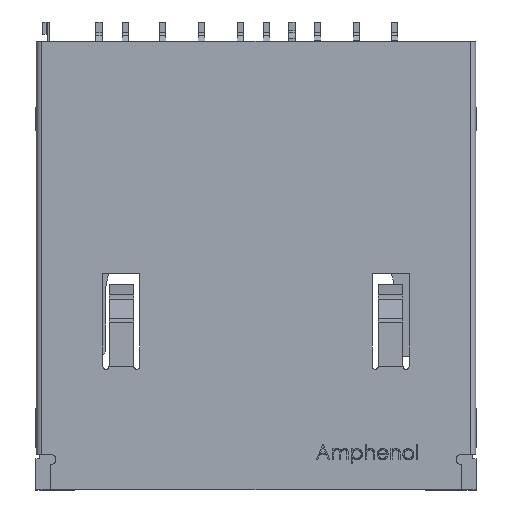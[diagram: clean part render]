
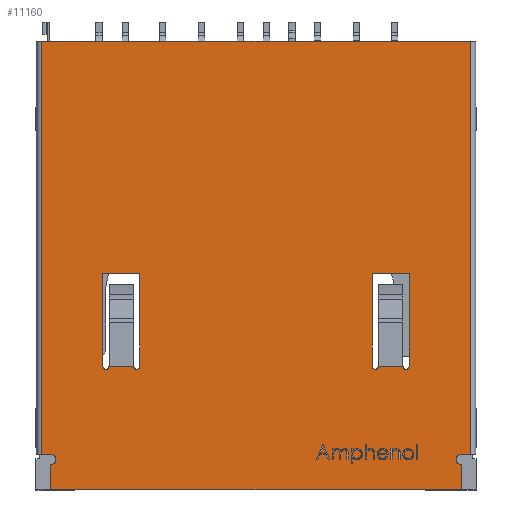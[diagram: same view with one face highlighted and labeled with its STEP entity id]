
A CAD part, top view. The second image highlights one B-rep face of the part: STEP entity #11160.
In plain terms, the highlighted planar face has unit normal (0, 0, 1) as drawn and (0, 1, 0) by its records, which use the part's own axes.
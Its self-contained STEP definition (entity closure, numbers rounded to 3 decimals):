
#378=CIRCLE('',#11990,0.33);
#379=CIRCLE('',#11991,0.33);
#380=CIRCLE('',#11992,0.2);
#381=CIRCLE('',#11993,0.2);
#382=CIRCLE('',#11994,0.2);
#383=CIRCLE('',#11995,0.2);
#586=FACE_BOUND('',#1288,.T.);
#587=FACE_BOUND('',#1289,.T.);
#647=FACE_OUTER_BOUND('',#1287,.T.);
#1287=EDGE_LOOP('',(#7486,#7487,#7488,#7489,#7490,#7491,#7492,#7493,#7494,
#7495));
#1288=EDGE_LOOP('',(#7496,#7497,#7498,#7499,#7500,#7501));
#1289=EDGE_LOOP('',(#7502,#7503,#7504,#7505,#7506,#7507));
#1995=LINE('',#15857,#3332);
#2013=LINE('',#15905,#3350);
#2015=LINE('',#15909,#3352);
#2017=LINE('',#15913,#3354);
#2018=LINE('',#15916,#3355);
#2019=LINE('',#15918,#3356);
#2020=LINE('',#15920,#3357);
#2021=LINE('',#15922,#3358);
#2022=LINE('',#15926,#3359);
#2023=LINE('',#15930,#3360);
#2024=LINE('',#15932,#3361);
#2025=LINE('',#15934,#3362);
#2026=LINE('',#15938,#3363);
#2027=LINE('',#15942,#3364);
#2028=LINE('',#15944,#3365);
#2029=LINE('',#15946,#3366);
#3332=VECTOR('',#12872,0.59);
#3350=VECTOR('',#12906,26.52);
#3352=VECTOR('',#12910,1.64);
#3354=VECTOR('',#12914,1.64);
#3355=VECTOR('',#12917,26.7);
#3356=VECTOR('',#12918,27.7);
#3357=VECTOR('',#12919,26.7);
#3358=VECTOR('',#12920,0.59);
#3359=VECTOR('',#12923,1.6);
#3360=VECTOR('',#12926,6.);
#3361=VECTOR('',#12927,2.4);
#3362=VECTOR('',#12928,6.);
#3363=VECTOR('',#12931,1.6);
#3364=VECTOR('',#12934,6.);
#3365=VECTOR('',#12935,2.4);
#3366=VECTOR('',#12936,6.);
#4660=VERTEX_POINT('',#15854);
#4661=VERTEX_POINT('',#15856);
#4682=VERTEX_POINT('',#15902);
#4683=VERTEX_POINT('',#15904);
#4684=VERTEX_POINT('',#15908);
#4685=VERTEX_POINT('',#15912);
#4686=VERTEX_POINT('',#15915);
#4687=VERTEX_POINT('',#15917);
#4688=VERTEX_POINT('',#15919);
#4689=VERTEX_POINT('',#15921);
#4690=VERTEX_POINT('',#15924);
#4691=VERTEX_POINT('',#15925);
#4692=VERTEX_POINT('',#15927);
#4693=VERTEX_POINT('',#15929);
#4694=VERTEX_POINT('',#15931);
#4695=VERTEX_POINT('',#15933);
#4696=VERTEX_POINT('',#15936);
#4697=VERTEX_POINT('',#15937);
#4698=VERTEX_POINT('',#15939);
#4699=VERTEX_POINT('',#15941);
#4700=VERTEX_POINT('',#15943);
#4701=VERTEX_POINT('',#15945);
#5760=EDGE_CURVE('',#4661,#4660,#1995,.T.);
#5784=EDGE_CURVE('',#4682,#4683,#2013,.T.);
#5786=EDGE_CURVE('',#4683,#4684,#2015,.T.);
#5788=EDGE_CURVE('',#4685,#4682,#2017,.T.);
#5789=EDGE_CURVE('',#4661,#4685,#378,.T.);
#5790=EDGE_CURVE('',#4660,#4686,#2018,.T.);
#5791=EDGE_CURVE('',#4687,#4686,#2019,.T.);
#5792=EDGE_CURVE('',#4687,#4688,#2020,.T.);
#5793=EDGE_CURVE('',#4689,#4688,#2021,.T.);
#5794=EDGE_CURVE('',#4684,#4689,#379,.T.);
#5795=EDGE_CURVE('',#4690,#4691,#2022,.T.);
#5796=EDGE_CURVE('',#4692,#4690,#380,.T.);
#5797=EDGE_CURVE('',#4693,#4692,#2023,.T.);
#5798=EDGE_CURVE('',#4694,#4693,#2024,.T.);
#5799=EDGE_CURVE('',#4694,#4695,#2025,.T.);
#5800=EDGE_CURVE('',#4691,#4695,#381,.T.);
#5801=EDGE_CURVE('',#4696,#4697,#2026,.T.);
#5802=EDGE_CURVE('',#4698,#4696,#382,.T.);
#5803=EDGE_CURVE('',#4699,#4698,#2027,.T.);
#5804=EDGE_CURVE('',#4700,#4699,#2028,.T.);
#5805=EDGE_CURVE('',#4701,#4700,#2029,.T.);
#5806=EDGE_CURVE('',#4697,#4701,#383,.T.);
#7486=ORIENTED_EDGE('',*,*,#5784,.F.);
#7487=ORIENTED_EDGE('',*,*,#5788,.F.);
#7488=ORIENTED_EDGE('',*,*,#5789,.F.);
#7489=ORIENTED_EDGE('',*,*,#5760,.T.);
#7490=ORIENTED_EDGE('',*,*,#5790,.T.);
#7491=ORIENTED_EDGE('',*,*,#5791,.F.);
#7492=ORIENTED_EDGE('',*,*,#5792,.T.);
#7493=ORIENTED_EDGE('',*,*,#5793,.F.);
#7494=ORIENTED_EDGE('',*,*,#5794,.F.);
#7495=ORIENTED_EDGE('',*,*,#5786,.F.);
#7496=ORIENTED_EDGE('',*,*,#5795,.F.);
#7497=ORIENTED_EDGE('',*,*,#5796,.F.);
#7498=ORIENTED_EDGE('',*,*,#5797,.F.);
#7499=ORIENTED_EDGE('',*,*,#5798,.F.);
#7500=ORIENTED_EDGE('',*,*,#5799,.T.);
#7501=ORIENTED_EDGE('',*,*,#5800,.F.);
#7502=ORIENTED_EDGE('',*,*,#5801,.F.);
#7503=ORIENTED_EDGE('',*,*,#5802,.F.);
#7504=ORIENTED_EDGE('',*,*,#5803,.F.);
#7505=ORIENTED_EDGE('',*,*,#5804,.F.);
#7506=ORIENTED_EDGE('',*,*,#5805,.F.);
#7507=ORIENTED_EDGE('',*,*,#5806,.F.);
#10679=PLANE('',#11989);
#11160=ADVANCED_FACE('',(#647,#586,#587),#10679,.T.);
#11989=AXIS2_PLACEMENT_3D('',#15911,#12912,#12913);
#11990=AXIS2_PLACEMENT_3D('',#15914,#12915,#12916);
#11991=AXIS2_PLACEMENT_3D('',#15923,#12921,#12922);
#11992=AXIS2_PLACEMENT_3D('',#15928,#12924,#12925);
#11993=AXIS2_PLACEMENT_3D('',#15935,#12929,#12930);
#11994=AXIS2_PLACEMENT_3D('',#15940,#12932,#12933);
#11995=AXIS2_PLACEMENT_3D('',#15947,#12937,#12938);
#12872=DIRECTION('',(1.,0.,0.));
#12906=DIRECTION('',(-1.,0.,0.));
#12910=DIRECTION('',(0.,0.,-1.));
#12912=DIRECTION('center_axis',(0.,1.,0.));
#12913=DIRECTION('ref_axis',(1.,0.,0.));
#12914=DIRECTION('',(0.,0.,1.));
#12915=DIRECTION('center_axis',(0.,1.,0.));
#12916=DIRECTION('ref_axis',(-1.,0.,0.));
#12917=DIRECTION('',(0.,0.,-1.));
#12918=DIRECTION('',(1.,0.,0.));
#12919=DIRECTION('',(0.,0.,1.));
#12920=DIRECTION('',(-1.,0.,0.));
#12921=DIRECTION('center_axis',(0.,1.,0.));
#12922=DIRECTION('ref_axis',(1.,0.,0.));
#12923=DIRECTION('',(1.,0.,0.));
#12924=DIRECTION('center_axis',(0.,1.,0.));
#12925=DIRECTION('ref_axis',(-1.,0.,0.));
#12926=DIRECTION('',(0.,0.,1.));
#12927=DIRECTION('',(-1.,0.,0.));
#12928=DIRECTION('',(0.,0.,1.));
#12929=DIRECTION('center_axis',(0.,1.,0.));
#12930=DIRECTION('ref_axis',(-1.,0.,0.));
#12931=DIRECTION('',(1.,0.,0.));
#12932=DIRECTION('center_axis',(0.,1.,0.));
#12933=DIRECTION('ref_axis',(-1.,0.,0.));
#12934=DIRECTION('',(0.,0.,1.));
#12935=DIRECTION('',(-1.,0.,0.));
#12936=DIRECTION('',(0.,0.,-1.));
#12937=DIRECTION('center_axis',(0.,1.,0.));
#12938=DIRECTION('ref_axis',(-1.,0.,0.));
#15854=CARTESIAN_POINT('',(13.85,2.8,26.7));
#15856=CARTESIAN_POINT('',(13.26,2.8,26.7));
#15857=CARTESIAN_POINT('',(13.26,2.8,26.7));
#15902=CARTESIAN_POINT('',(13.26,2.8,29.));
#15904=CARTESIAN_POINT('',(-13.26,2.8,29.));
#15905=CARTESIAN_POINT('',(13.26,2.8,29.));
#15908=CARTESIAN_POINT('',(-13.26,2.8,27.36));
#15909=CARTESIAN_POINT('',(-13.26,2.8,29.));
#15911=CARTESIAN_POINT('Origin',(0.,2.8,14.5));
#15912=CARTESIAN_POINT('',(13.26,2.8,27.36));
#15913=CARTESIAN_POINT('',(13.26,2.8,27.36));
#15914=CARTESIAN_POINT('Origin',(13.26,2.8,27.03));
#15915=CARTESIAN_POINT('',(13.85,2.8,0.));
#15916=CARTESIAN_POINT('',(13.85,2.8,26.7));
#15917=CARTESIAN_POINT('',(-13.85,2.8,0.));
#15918=CARTESIAN_POINT('',(-13.85,2.8,0.));
#15919=CARTESIAN_POINT('',(-13.85,2.8,26.7));
#15920=CARTESIAN_POINT('',(-13.85,2.8,0.));
#15921=CARTESIAN_POINT('',(-13.26,2.8,26.7));
#15922=CARTESIAN_POINT('',(-13.26,2.8,26.7));
#15923=CARTESIAN_POINT('Origin',(-13.26,2.8,27.03));
#15924=CARTESIAN_POINT('',(7.9,2.8,21.));
#15925=CARTESIAN_POINT('',(9.5,2.8,21.));
#15926=CARTESIAN_POINT('',(7.9,2.8,21.));
#15927=CARTESIAN_POINT('',(7.5,2.8,21.));
#15928=CARTESIAN_POINT('Origin',(7.7,2.8,21.));
#15929=CARTESIAN_POINT('',(7.5,2.8,15.));
#15930=CARTESIAN_POINT('',(7.5,2.8,15.));
#15931=CARTESIAN_POINT('',(9.9,2.8,15.));
#15932=CARTESIAN_POINT('',(9.9,2.8,15.));
#15933=CARTESIAN_POINT('',(9.9,2.8,21.));
#15934=CARTESIAN_POINT('',(9.9,2.8,15.));
#15935=CARTESIAN_POINT('Origin',(9.7,2.8,21.));
#15936=CARTESIAN_POINT('',(-9.5,2.8,21.));
#15937=CARTESIAN_POINT('',(-7.9,2.8,21.));
#15938=CARTESIAN_POINT('',(-9.5,2.8,21.));
#15939=CARTESIAN_POINT('',(-9.9,2.8,21.));
#15940=CARTESIAN_POINT('Origin',(-9.7,2.8,21.));
#15941=CARTESIAN_POINT('',(-9.9,2.8,15.));
#15942=CARTESIAN_POINT('',(-9.9,2.8,15.));
#15943=CARTESIAN_POINT('',(-7.5,2.8,15.));
#15944=CARTESIAN_POINT('',(-7.5,2.8,15.));
#15945=CARTESIAN_POINT('',(-7.5,2.8,21.));
#15946=CARTESIAN_POINT('',(-7.5,2.8,21.));
#15947=CARTESIAN_POINT('Origin',(-7.7,2.8,21.));
